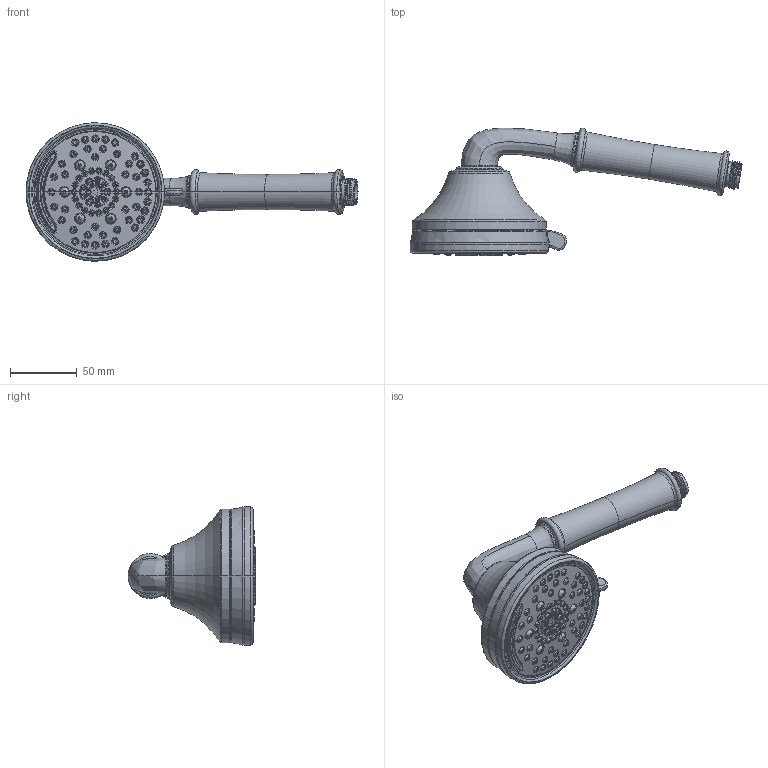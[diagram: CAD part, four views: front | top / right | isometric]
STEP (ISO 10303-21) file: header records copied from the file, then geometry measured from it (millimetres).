
FILE_DESCRIPTION (( 'STEP AP214' ), '1' );
FILE_NAME ('582W7.STEP', '2025-01-06T04:44:15', ( '' ), ( '' ), 'SwSTEP 2.0', 'SolidWorks 2023', '' );
FILE_SCHEMA (( 'AUTOMOTIVE_DESIGN' ));
Length unit declared in the file: inch
Products named in the file (1): 582W7
Bounding box: 248.06 x 95.51 x 103.45 mm (x, y, z)
Surface area: 61265.6 mm2 (no closed solid volume)
Topology: 0 solids, 92 shells, 1181 faces, 3902 edges, 2777 vertices
Faces by surface type: bspline 485, cone 438, plane 119, torus 106, cylinder 27, sphere 6
Entity records: 131579 total; most frequent: CARTESIAN_POINT 103550, ORIENTED_EDGE 6129, DIRECTION 4139, EDGE_CURVE 3902, VERTEX_POINT 2777, B_SPLINE_CURVE_WITH_KNOTS 1949, AXIS2_PLACEMENT_3D 1675, EDGE_LOOP 1409
